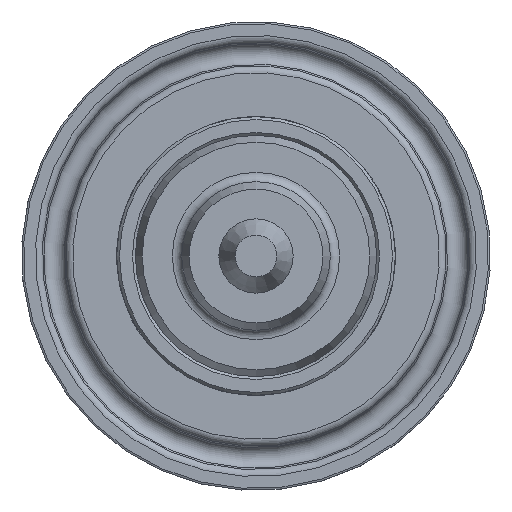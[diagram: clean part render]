
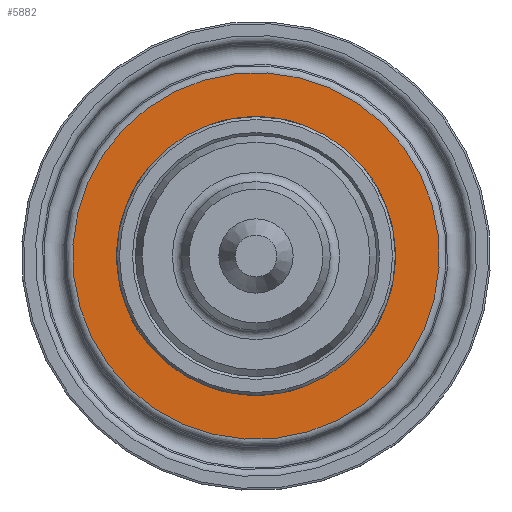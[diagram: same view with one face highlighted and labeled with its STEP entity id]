
A CAD part, left-side view. The second image highlights one B-rep face of the part: STEP entity #5882.
In plain terms, the highlighted planar face has unit normal (-1, 0, 0).
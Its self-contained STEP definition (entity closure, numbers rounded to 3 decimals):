
#1017=PLANE('',#6164);
#1099=ORIENTED_EDGE('',*,*,#2542,.T.);
#1100=ORIENTED_EDGE('',*,*,#2543,.F.);
#2542=EDGE_CURVE('',#3264,#3264,#3811,.F.);
#2543=EDGE_CURVE('',#3265,#3265,#3812,.T.);
#3264=VERTEX_POINT('',#7200);
#3265=VERTEX_POINT('',#7202);
#3811=CIRCLE('',#6165,15.);
#3812=CIRCLE('',#6166,19.747);
#3913=EDGE_LOOP('',(#1099));
#3914=EDGE_LOOP('',(#1100));
#4274=FACE_BOUND('',#3913,.T.);
#4275=FACE_BOUND('',#3914,.T.);
#5882=ADVANCED_FACE('',(#4274,#4275),#1017,.T.);
#6164=AXIS2_PLACEMENT_3D('',#7198,#6458,#6459);
#6165=AXIS2_PLACEMENT_3D('',#7199,#6460,#6461);
#6166=AXIS2_PLACEMENT_3D('',#7201,#6462,#6463);
#6458=DIRECTION('',(-1.,0.,0.));
#6459=DIRECTION('',(0.,0.593,0.805));
#6460=DIRECTION('',(-1.,0.,0.));
#6461=DIRECTION('',(0.,-1.,0.));
#6462=DIRECTION('',(1.,0.,0.));
#6463=DIRECTION('',(0.,0.593,0.805));
#7198=CARTESIAN_POINT('',(163.371,5.859,7.947));
#7199=CARTESIAN_POINT('',(163.371,0.,0.));
#7200=CARTESIAN_POINT('',(163.371,-15.,0.));
#7201=CARTESIAN_POINT('',(163.371,0.,0.));
#7202=CARTESIAN_POINT('',(163.371,11.719,15.894));
